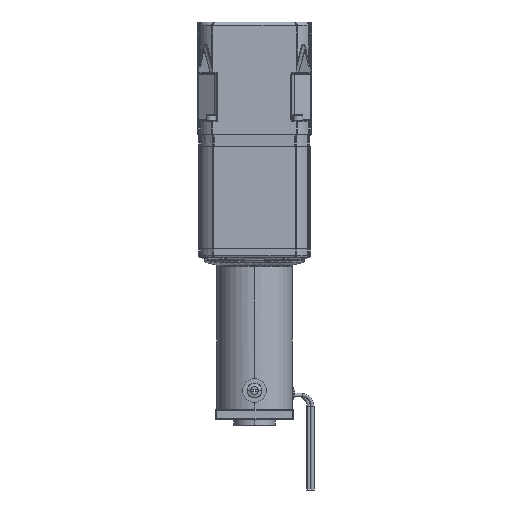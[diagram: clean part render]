
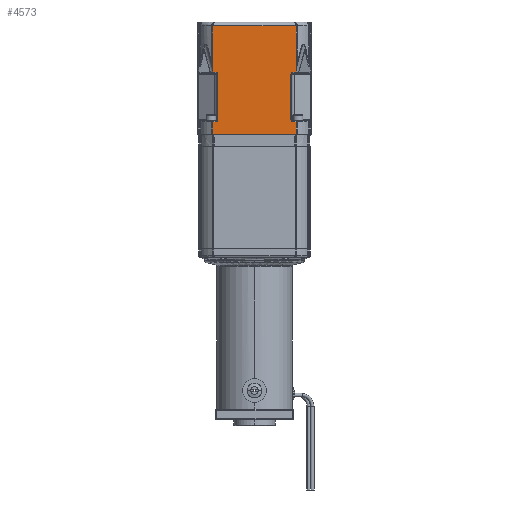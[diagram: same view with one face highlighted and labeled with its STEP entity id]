
A CAD part, left-side view. The second image highlights one B-rep face of the part: STEP entity #4573.
In plain terms, the highlighted planar face has unit normal (-1, 0, 0).
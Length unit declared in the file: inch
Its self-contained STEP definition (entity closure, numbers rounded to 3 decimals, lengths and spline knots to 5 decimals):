
#582 = DIRECTION ( 'NONE',  ( -1., 0., 0. ) ) ;
#640 = PLANE ( 'NONE',  #2565 ) ;
#1270 = VERTEX_POINT ( 'NONE', #13001 ) ;
#1743 = CARTESIAN_POINT ( 'NONE',  ( -1.795, -1.2125, 0.787 ) ) ;
#1843 = ORIENTED_EDGE ( 'NONE', *, *, #21033, .F. ) ;
#2178 = CARTESIAN_POINT ( 'NONE',  ( -1.795, -1.31228, 0.36 ) ) ;
#2565 = AXIS2_PLACEMENT_3D ( 'NONE', #48296, #48236, #47978 ) ;
#2726 = CARTESIAN_POINT ( 'NONE',  ( -1.795, 1.2125, 0.787 ) ) ;
#3230 = VERTEX_POINT ( 'NONE', #1743 ) ;
#3246 = CARTESIAN_POINT ( 'NONE',  ( -1.795, 1.785, 0.38 ) ) ;
#3328 = AXIS2_PLACEMENT_3D ( 'NONE', #17066, #43090, #20769 ) ;
#3797 = CARTESIAN_POINT ( 'NONE',  ( -1.795, 1.785, 3.805 ) ) ;
#3999 = DIRECTION ( 'NONE',  ( -1., 0., 0. ) ) ;
#4333 = EDGE_CURVE ( 'NONE', #24263, #40589, #8526, .T. ) ;
#4467 = DIRECTION ( 'NONE',  ( 0., 1., 0. ) ) ;
#4573 = ADVANCED_FACE ( 'NONE', ( #4721 ), #640, .F. ) ;
#4721 = FACE_OUTER_BOUND ( 'NONE', #22988, .T. ) ;
#4736 = ORIENTED_EDGE ( 'NONE', *, *, #21381, .T. ) ;
#6284 = VERTEX_POINT ( 'NONE', #23905 ) ;
#7268 = VECTOR ( 'NONE', #4467, 39.37008 ) ;
#7680 = CARTESIAN_POINT ( 'NONE',  ( -1.795, 1.31228, 0.36 ) ) ;
#7955 = DIRECTION ( 'NONE',  ( 0., 0., -1. ) ) ;
#8018 = VECTOR ( 'NONE', #12727, 39.37008 ) ;
#8118 = VERTEX_POINT ( 'NONE', #2726 ) ;
#8185 = ORIENTED_EDGE ( 'NONE', *, *, #18415, .T. ) ;
#8526 = LINE ( 'NONE', #3797, #7268 ) ;
#8572 = EDGE_CURVE ( 'NONE', #17226, #40082, #47847, .T. ) ;
#9029 = CARTESIAN_POINT ( 'NONE',  ( -1.795, 1.31228, 0.36 ) ) ;
#9677 = VECTOR ( 'NONE', #34214, 39.37008 ) ;
#9776 = CARTESIAN_POINT ( 'NONE',  ( -1.795, -1.2125, 2.287 ) ) ;
#9899 = VECTOR ( 'NONE', #26297, 39.37008 ) ;
#10714 = EDGE_CURVE ( 'NONE', #40589, #1270, #33463, .T. ) ;
#11320 = VERTEX_POINT ( 'NONE', #40204 ) ;
#11631 = CARTESIAN_POINT ( 'NONE',  ( -1.795, 1.29696, 2.347 ) ) ;
#11701 = CARTESIAN_POINT ( 'NONE',  ( -1.795, -1.1525, 2.317 ) ) ;
#11746 = CARTESIAN_POINT ( 'NONE',  ( -1.795, 1.34228, 0.787 ) ) ;
#11765 = DIRECTION ( 'NONE',  ( 0., -1., 0. ) ) ;
#11793 = ORIENTED_EDGE ( 'NONE', *, *, #19549, .T. ) ;
#12706 = CARTESIAN_POINT ( 'NONE',  ( -1.795, 1.1525, 2.287 ) ) ;
#12727 = DIRECTION ( 'NONE',  ( 0., -0.25, -0.968 ) ) ;
#13001 = CARTESIAN_POINT ( 'NONE',  ( -1.795, 1.31228, 2.40629 ) ) ;
#13027 = CARTESIAN_POINT ( 'NONE',  ( -1.795, -1.1525, 2.287 ) ) ;
#13765 = DIRECTION ( 'NONE',  ( 0., 0., -1. ) ) ;
#14291 = ORIENTED_EDGE ( 'NONE', *, *, #20117, .F. ) ;
#14382 = ORIENTED_EDGE ( 'NONE', *, *, #21746, .T. ) ;
#14926 = VECTOR ( 'NONE', #20693, 39.37008 ) ;
#15200 = CARTESIAN_POINT ( 'NONE',  ( -1.795, 1.785, 2.347 ) ) ;
#15653 = CARTESIAN_POINT ( 'NONE',  ( -1.795, 1.2125, 2.347 ) ) ;
#16050 = CARTESIAN_POINT ( 'NONE',  ( -1.795, 1.1525, 0.817 ) ) ;
#16791 = LINE ( 'NONE', #9029, #36588 ) ;
#17066 = CARTESIAN_POINT ( 'NONE',  ( -1.795, 1.2125, 2.287 ) ) ;
#17226 = VERTEX_POINT ( 'NONE', #33068 ) ;
#18069 = EDGE_CURVE ( 'NONE', #1270, #23097, #40446, .T. ) ;
#18282 = VECTOR ( 'NONE', #11765, 39.37008 ) ;
#18393 = ORIENTED_EDGE ( 'NONE', *, *, #22188, .T. ) ;
#18415 = EDGE_CURVE ( 'NONE', #23097, #18982, #36950, .T. ) ;
#18959 = DIRECTION ( 'NONE',  ( 0., 0., 1. ) ) ;
#18982 = VERTEX_POINT ( 'NONE', #15653 ) ;
#19035 = ORIENTED_EDGE ( 'NONE', *, *, #23972, .T. ) ;
#19056 = VERTEX_POINT ( 'NONE', #45495 ) ;
#19170 = VECTOR ( 'NONE', #27335, 39.37008 ) ;
#19549 = EDGE_CURVE ( 'NONE', #48963, #3230, #29668, .T. ) ;
#20117 = EDGE_CURVE ( 'NONE', #11320, #3230, #30757, .T. ) ;
#20673 = EDGE_CURVE ( 'NONE', #11320, #29022, #48492, .T. ) ;
#20693 = DIRECTION ( 'NONE',  ( 0., 0., 1. ) ) ;
#20769 = DIRECTION ( 'NONE',  ( 0., 0., -1. ) ) ;
#20900 = EDGE_CURVE ( 'NONE', #34177, #18982, #28567, .T. ) ;
#21033 = EDGE_CURVE ( 'NONE', #19056, #29022, #32671, .T. ) ;
#21163 = EDGE_CURVE ( 'NONE', #46822, #48963, #32632, .T. ) ;
#21381 = EDGE_CURVE ( 'NONE', #45840, #48029, #16791, .T. ) ;
#21464 = AXIS2_PLACEMENT_3D ( 'NONE', #9776, #36111, #13765 ) ;
#21746 = EDGE_CURVE ( 'NONE', #34177, #6284, #30151, .T. ) ;
#21764 = CARTESIAN_POINT ( 'NONE',  ( -1.795, 1.785, 0.787 ) ) ;
#22096 = EDGE_CURVE ( 'NONE', #48029, #46822, #48721, .T. ) ;
#22188 = EDGE_CURVE ( 'NONE', #19056, #40082, #28221, .T. ) ;
#22988 = EDGE_LOOP ( 'NONE', ( #4736, #33540, #45806, #11793, #14291, #28899, #1843, #18393, #40560, #25442, #27795, #33618, #35946, #8185, #31933, #14382, #35389, #19035 ) ) ;
#23097 = VERTEX_POINT ( 'NONE', #11631 ) ;
#23201 = EDGE_CURVE ( 'NONE', #8118, #6284, #30394, .T. ) ;
#23655 = CARTESIAN_POINT ( 'NONE',  ( -1.795, 1.31228, 0.38 ) ) ;
#23772 = CARTESIAN_POINT ( 'NONE',  ( -1.795, -1.2125, 0.847 ) ) ;
#23905 = CARTESIAN_POINT ( 'NONE',  ( -1.795, 1.1525, 0.847 ) ) ;
#23972 = EDGE_CURVE ( 'NONE', #8118, #45840, #28145, .T. ) ;
#24263 = VERTEX_POINT ( 'NONE', #47505 ) ;
#25442 = ORIENTED_EDGE ( 'NONE', *, *, #49266, .T. ) ;
#26070 = CARTESIAN_POINT ( 'NONE',  ( -1.795, -1.29696, 2.347 ) ) ;
#26175 = AXIS2_PLACEMENT_3D ( 'NONE', #23772, #582, #27581 ) ;
#26194 = CARTESIAN_POINT ( 'NONE',  ( -1.795, -0.62311, -0.26197 ) ) ;
#26297 = DIRECTION ( 'NONE',  ( 0., -1., 0. ) ) ;
#26816 = CARTESIAN_POINT ( 'NONE',  ( -1.795, -1.31228, 0.787 ) ) ;
#26975 = CARTESIAN_POINT ( 'NONE',  ( -1.795, 1.2125, 0.847 ) ) ;
#27335 = DIRECTION ( 'NONE',  ( 0., 0.25, -0.968 ) ) ;
#27581 = DIRECTION ( 'NONE',  ( 0., 0., -1. ) ) ;
#27795 = ORIENTED_EDGE ( 'NONE', *, *, #4333, .T. ) ;
#28145 = LINE ( 'NONE', #11746, #46871 ) ;
#28221 = LINE ( 'NONE', #45359, #18282 ) ;
#28567 = CIRCLE ( 'NONE', #3328, 0.06 ) ;
#28899 = ORIENTED_EDGE ( 'NONE', *, *, #20673, .T. ) ;
#29022 = VERTEX_POINT ( 'NONE', #13027 ) ;
#29314 = DIRECTION ( 'NONE',  ( 0., 1., 0. ) ) ;
#29668 = LINE ( 'NONE', #21764, #48367 ) ;
#30151 = LINE ( 'NONE', #16050, #40019 ) ;
#30394 = CIRCLE ( 'NONE', #47050, 0.06 ) ;
#30749 = DIRECTION ( 'NONE',  ( 0., 0., -1. ) ) ;
#30757 = CIRCLE ( 'NONE', #26175, 0.06 ) ;
#31933 = ORIENTED_EDGE ( 'NONE', *, *, #20900, .F. ) ;
#32563 = CARTESIAN_POINT ( 'NONE',  ( -1.795, 1.31228, 3.805 ) ) ;
#32632 = LINE ( 'NONE', #45039, #42464 ) ;
#32671 = CIRCLE ( 'NONE', #21464, 0.06 ) ;
#33068 = CARTESIAN_POINT ( 'NONE',  ( -1.795, -1.31228, 2.40629 ) ) ;
#33463 = LINE ( 'NONE', #7680, #42157 ) ;
#33540 = ORIENTED_EDGE ( 'NONE', *, *, #22096, .T. ) ;
#33618 = ORIENTED_EDGE ( 'NONE', *, *, #10714, .T. ) ;
#34177 = VERTEX_POINT ( 'NONE', #12706 ) ;
#34214 = DIRECTION ( 'NONE',  ( 0., 0., 1. ) ) ;
#34792 = LINE ( 'NONE', #2178, #14926 ) ;
#35229 = CARTESIAN_POINT ( 'NONE',  ( -1.795, 1.31228, 0.787 ) ) ;
#35389 = ORIENTED_EDGE ( 'NONE', *, *, #23201, .F. ) ;
#35426 = DIRECTION ( 'NONE',  ( 0., 0., -1. ) ) ;
#35946 = ORIENTED_EDGE ( 'NONE', *, *, #18069, .T. ) ;
#36111 = DIRECTION ( 'NONE',  ( -1., 0., 0. ) ) ;
#36588 = VECTOR ( 'NONE', #35426, 39.37008 ) ;
#36950 = LINE ( 'NONE', #15200, #45751 ) ;
#38133 = DIRECTION ( 'NONE',  ( 0., 1., 0. ) ) ;
#38381 = DIRECTION ( 'NONE',  ( 0., 0., -1. ) ) ;
#40019 = VECTOR ( 'NONE', #38381, 39.37008 ) ;
#40082 = VERTEX_POINT ( 'NONE', #26070 ) ;
#40139 = CARTESIAN_POINT ( 'NONE',  ( -1.795, -1.31228, 0.38 ) ) ;
#40204 = CARTESIAN_POINT ( 'NONE',  ( -1.795, -1.1525, 0.847 ) ) ;
#40446 = LINE ( 'NONE', #42600, #8018 ) ;
#40560 = ORIENTED_EDGE ( 'NONE', *, *, #8572, .F. ) ;
#40589 = VERTEX_POINT ( 'NONE', #32563 ) ;
#42157 = VECTOR ( 'NONE', #7955, 39.37008 ) ;
#42464 = VECTOR ( 'NONE', #18959, 39.37008 ) ;
#42600 = CARTESIAN_POINT ( 'NONE',  ( -1.795, 0.84637, 0.60243 ) ) ;
#43090 = DIRECTION ( 'NONE',  ( -1., 0., 0. ) ) ;
#45039 = CARTESIAN_POINT ( 'NONE',  ( -1.795, -1.31228, 0.36 ) ) ;
#45207 = DIRECTION ( 'NONE',  ( 0., -1., 0. ) ) ;
#45359 = CARTESIAN_POINT ( 'NONE',  ( -1.795, -1.28921, 2.347 ) ) ;
#45495 = CARTESIAN_POINT ( 'NONE',  ( -1.795, -1.2125, 2.347 ) ) ;
#45751 = VECTOR ( 'NONE', #45207, 39.37008 ) ;
#45806 = ORIENTED_EDGE ( 'NONE', *, *, #21163, .T. ) ;
#45840 = VERTEX_POINT ( 'NONE', #35229 ) ;
#46822 = VERTEX_POINT ( 'NONE', #40139 ) ;
#46871 = VECTOR ( 'NONE', #38133, 39.37008 ) ;
#47050 = AXIS2_PLACEMENT_3D ( 'NONE', #26975, #3999, #30749 ) ;
#47505 = CARTESIAN_POINT ( 'NONE',  ( -1.795, -1.31228, 3.805 ) ) ;
#47847 = LINE ( 'NONE', #26194, #19170 ) ;
#47978 = DIRECTION ( 'NONE',  ( 0., 0., -1. ) ) ;
#48029 = VERTEX_POINT ( 'NONE', #23655 ) ;
#48236 = DIRECTION ( 'NONE',  ( 1., 0., 0. ) ) ;
#48296 = CARTESIAN_POINT ( 'NONE',  ( -1.795, 1.785, 0.36 ) ) ;
#48367 = VECTOR ( 'NONE', #29314, 39.37008 ) ;
#48492 = LINE ( 'NONE', #11701, #9677 ) ;
#48721 = LINE ( 'NONE', #3246, #9899 ) ;
#48963 = VERTEX_POINT ( 'NONE', #26816 ) ;
#49266 = EDGE_CURVE ( 'NONE', #17226, #24263, #34792, .T. ) ;
